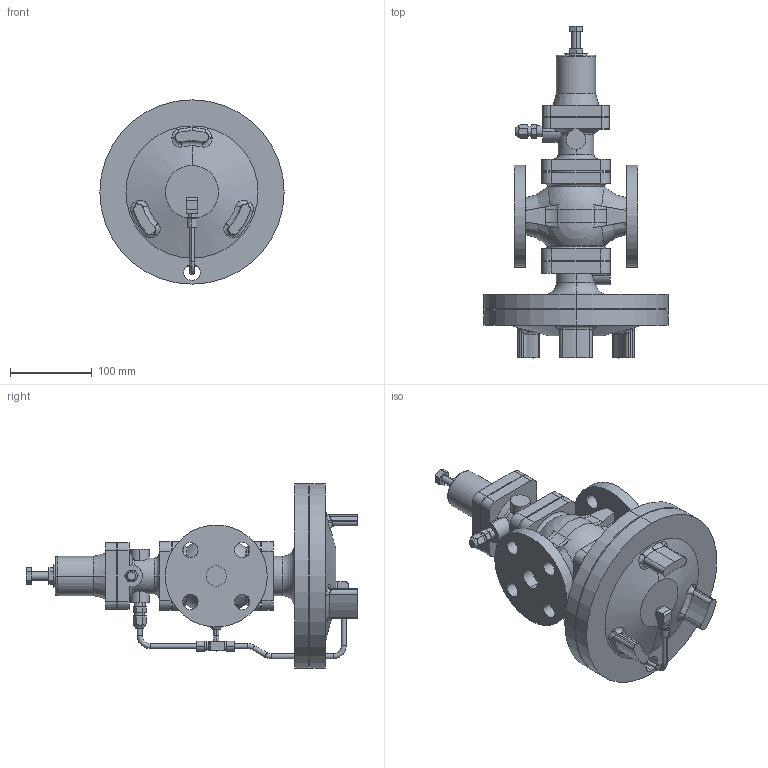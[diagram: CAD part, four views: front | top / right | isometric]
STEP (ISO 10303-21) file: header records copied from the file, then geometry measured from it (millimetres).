
FILE_DESCRIPTION (( 'STEP AP203' ), '1' );
FILE_NAME ('GPR-2000 JIS10K 25A.STEP', '2025-12-05T02:08:51', ( '' ), ( '' ), 'SwSTEP 2.0', 'SolidWorks 2024', '' );
FILE_SCHEMA (( 'CONFIG_CONTROL_DESIGN' ));
Length unit declared in the file: millimetre
Products named in the file (8): Elbow; Pipe A 15-25A; Pipe B 25A; Pipe C 25A; GPR-2000 JIS10K 25A; Tee; Joint; GPR-2000 Body Assy EN 25A
Assembly tree (9 placements, depth 2):
  GPR-2000 JIS10K 25A
    GPR-2000 Body Assy EN 25A
    Tee
    Pipe B 25A
    Joint  x3
    Pipe C 25A
    Elbow
    Pipe A 15-25A
Bounding box: 226 x 407.1 x 226 mm (x, y, z)
Volume: 3412257.7 mm3; surface area: 359443.2 mm2
Topology: 9 solids, 9 shells, 465 faces, 1168 edges, 763 vertices
Faces by surface type: plane 191, cylinder 181, torus 38, cone 27, bspline 24, sphere 4
Entity records: 16634 total; most frequent: CARTESIAN_POINT 5760, DIRECTION 2144, ORIENTED_EDGE 2052, EDGE_CURVE 1026, AXIS2_PLACEMENT_3D 847, VERTEX_POINT 663, EDGE_LOOP 481, LINE 450
